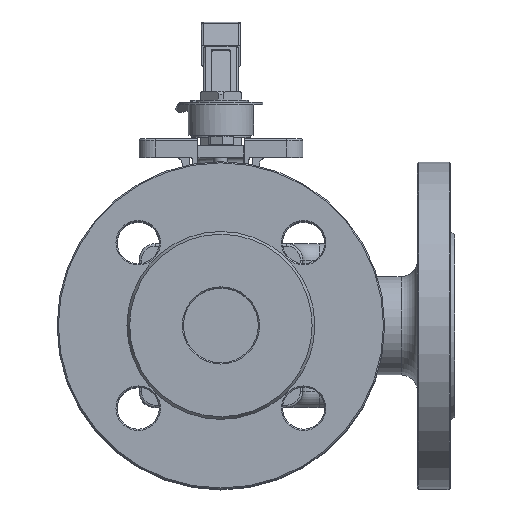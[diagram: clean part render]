
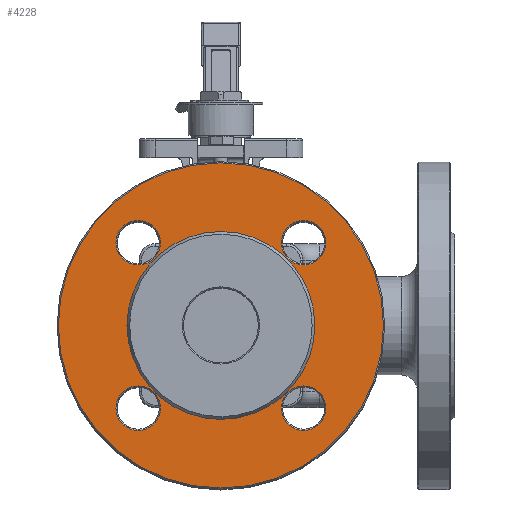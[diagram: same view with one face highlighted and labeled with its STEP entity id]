
A CAD part, top view. The second image highlights one B-rep face of the part: STEP entity #4228.
In plain terms, the highlighted planar face has unit normal (0, 0, 1).
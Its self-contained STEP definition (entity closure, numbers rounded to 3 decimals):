
#4228=ADVANCED_FACE('',(#12371,#12373,#12375,#12377,#12379,#12381),#12383,.T.);
#12371=FACE_BOUND('',#12372,.T.);
#12372=EDGE_LOOP('',(#18156));
#12373=FACE_BOUND('',#12374,.T.);
#12374=EDGE_LOOP('',(#18157));
#12375=FACE_BOUND('',#12376,.T.);
#12376=EDGE_LOOP('',(#18158));
#12377=FACE_BOUND('',#12378,.T.);
#12378=EDGE_LOOP('',(#18159));
#12379=FACE_BOUND('',#12380,.T.);
#12380=EDGE_LOOP('',(#18160));
#12381=FACE_BOUND('',#12382,.T.);
#12382=EDGE_LOOP('',(#18161));
#12383=PLANE('',#12384);
#12384=AXIS2_PLACEMENT_3D('',#12385,#12386,#12387);
#12385=CARTESIAN_POINT('',(0.,0.,98.));
#12386=DIRECTION('',(0.,0.,1.));
#12387=DIRECTION('',(1.,0.,0.));
#18156=ORIENTED_EDGE('',*,*,#21021,.F.);
#18157=ORIENTED_EDGE('',*,*,#20926,.F.);
#18158=ORIENTED_EDGE('',*,*,#20924,.F.);
#18159=ORIENTED_EDGE('',*,*,#21022,.F.);
#18160=ORIENTED_EDGE('',*,*,#20925,.F.);
#18161=ORIENTED_EDGE('',*,*,#20923,.F.);
#20923=EDGE_CURVE('',#24214,#24214,#24215,.T.);
#20924=EDGE_CURVE('',#24216,#24216,#24217,.T.);
#20925=EDGE_CURVE('',#24218,#24218,#24219,.T.);
#20926=EDGE_CURVE('',#24220,#24220,#24221,.T.);
#21021=EDGE_CURVE('',#24370,#24370,#24371,.T.);
#21022=EDGE_CURVE('',#24372,#24372,#24373,.T.);
#24214=VERTEX_POINT('',#40518);
#24215=CIRCLE('',#40519,9.5);
#24216=VERTEX_POINT('',#40523);
#24217=CIRCLE('',#40524,9.5);
#24218=VERTEX_POINT('',#40528);
#24219=CIRCLE('',#40529,9.5);
#24220=VERTEX_POINT('',#40533);
#24221=CIRCLE('',#40534,9.5);
#24370=VERTEX_POINT('',#41153);
#24371=CIRCLE('',#41154,69.5);
#24372=VERTEX_POINT('',#41158);
#24373=CIRCLE('',#41159,40.155);
#40518=CARTESIAN_POINT('',(-25.855,-35.355,98.));
#40519=AXIS2_PLACEMENT_3D('',#40520,#40521,#40522);
#40520=CARTESIAN_POINT('',(-35.355,-35.355,98.));
#40521=DIRECTION('',(0.,0.,1.));
#40522=DIRECTION('',(1.,0.,0.));
#40523=CARTESIAN_POINT('',(-25.855,35.355,98.));
#40524=AXIS2_PLACEMENT_3D('',#40525,#40526,#40527);
#40525=CARTESIAN_POINT('',(-35.355,35.355,98.));
#40526=DIRECTION('',(0.,0.,1.));
#40527=DIRECTION('',(1.,0.,0.));
#40528=CARTESIAN_POINT('',(44.855,35.355,98.));
#40529=AXIS2_PLACEMENT_3D('',#40530,#40531,#40532);
#40530=CARTESIAN_POINT('',(35.355,35.355,98.));
#40531=DIRECTION('',(0.,0.,1.));
#40532=DIRECTION('',(1.,0.,0.));
#40533=CARTESIAN_POINT('',(44.855,-35.355,98.));
#40534=AXIS2_PLACEMENT_3D('',#40535,#40536,#40537);
#40535=CARTESIAN_POINT('',(35.355,-35.355,98.));
#40536=DIRECTION('',(0.,0.,1.));
#40537=DIRECTION('',(1.,0.,0.));
#41153=CARTESIAN_POINT('',(69.5,0.,98.));
#41154=AXIS2_PLACEMENT_3D('',#41155,#41156,#41157);
#41155=CARTESIAN_POINT('',(0.,0.,98.));
#41156=DIRECTION('',(0.,0.,-1.));
#41157=DIRECTION('',(1.,0.,0.));
#41158=CARTESIAN_POINT('',(40.155,0.,98.));
#41159=AXIS2_PLACEMENT_3D('',#41160,#41161,#41162);
#41160=CARTESIAN_POINT('',(0.,0.,98.));
#41161=DIRECTION('',(0.,0.,1.));
#41162=DIRECTION('',(1.,0.,0.));
